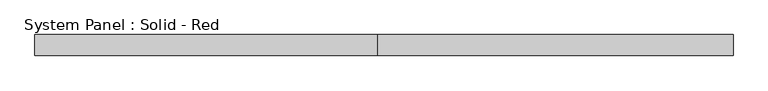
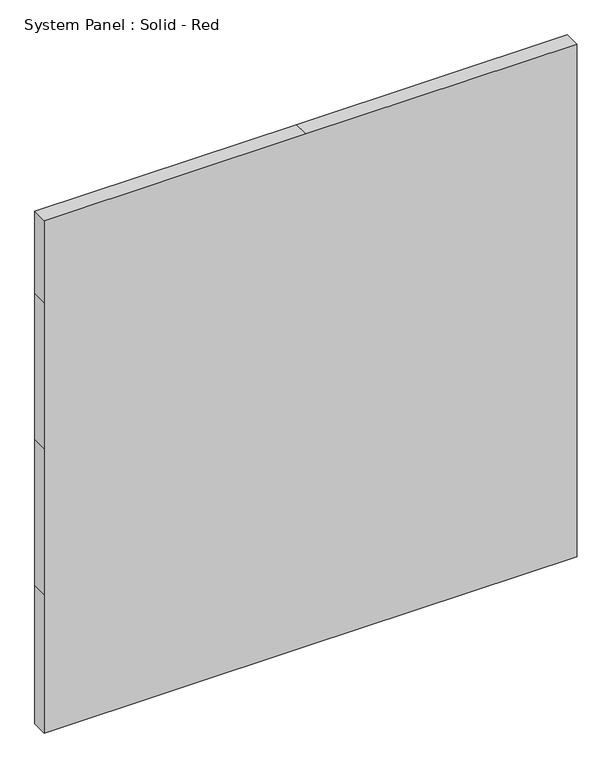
"""IFC4 building model written with IfcOpenShell, lengths in millimetres: plate geometry, System Panel : Solid - Red."""

from ifc_helpers import new_model, si_unit, frame, origin, place, context, project, spatial, polyline, outline, extrude, source, transform, mapped, element, save


def system_panel_solid_red_bfcf1acb(model_context):
    return source(origin(), model_context, "Body", "SweptSolid", [
        extrude(outline(polyline([(0.0, -1052.2857143), (0.0, -18.1428571), (0.0, 1052.2857143), (577.85, 1052.2857143), (1187.45, 1052.2857143), (1797.05, 1052.2857143), (2139.6709562, 1052.2857143), (2139.6709562, -18.1428571), (2139.6709562, -1052.2857143), (1797.05, -1052.2857143), (1187.45, -1052.2857143), (577.85, -1052.2857143), (0.0, -1052.2857143)])), frame((0.0, -19.05, 0.0), z_axis=(0.0, 1.0, 0.0), x_axis=(0.0, 0.0, 1.0)), (0.0, 0.0, 1.0), 63.5),
    ])


if __name__ == "__main__":
    model = new_model("IFC4")
    model_context = context("Model", 3, world=origin())
    ifc_project = project(units=[si_unit("LENGTHUNIT", "METRE", prefix="MILLI")], contexts=[model_context])
    site = spatial("IfcSite", under=ifc_project)
    building = spatial("IfcBuilding", under=site)
    placement = place(None, origin())
    system_panel_solid_red_shape = system_panel_solid_red_bfcf1acb(model_context)
    element("IfcPlate", 1, ObjectType="System Panel : Solid - Red", at=placement, inside=building, context=model_context, shape_type="MappedRepresentation", body=[
        mapped(system_panel_solid_red_shape, transform((0.0, 0.0, 0.0), x_axis=(1.0, 0.0, 0.0), y_axis=(0.0, 1.0, 0.0), z_axis=(0.0, 0.0, 1.0))),
    ])
    save(model, "model.ifc")
